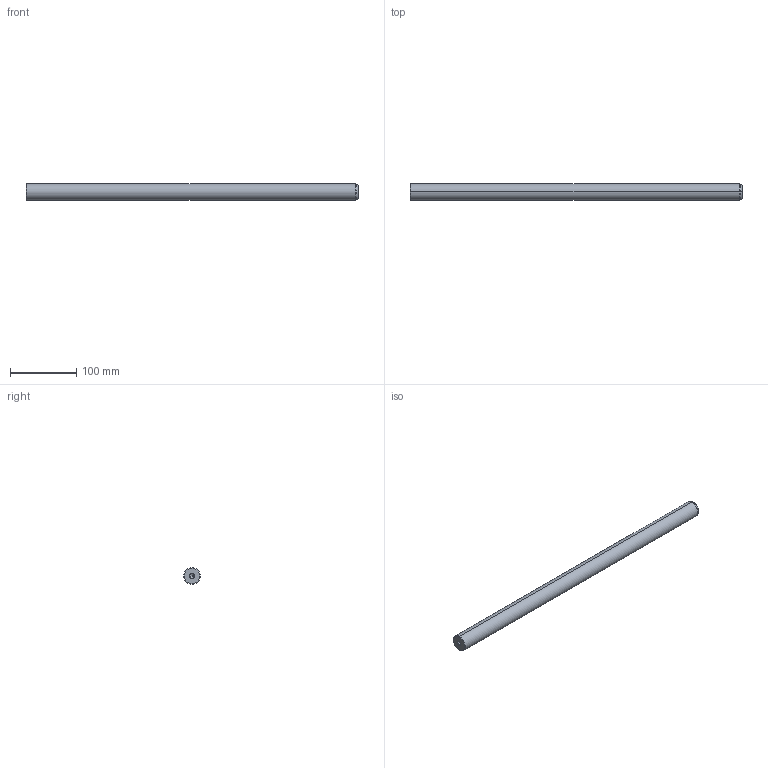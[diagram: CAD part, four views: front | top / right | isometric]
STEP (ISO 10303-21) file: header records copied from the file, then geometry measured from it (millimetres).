
FILE_DESCRIPTION(('CATIA V5 STEP Exchange'),'2;1');
FILE_NAME('C:\Users\Utente\Desktop\IO LAVORO\3D X SITO CF\X SITO\720\720-25x500.stp','2021-01-01T12:35:47+00:00',('none'),('none'),'CATIA Version 5 Release 20 GA (IN-10)','CATIA V5 STEP AP203','none');
FILE_SCHEMA(('CONFIG_CONTROL_DESIGN'));
Length unit declared in the file: millimetre
Products named in the file (1): 720-25x500
Bounding box: 500 x 25 x 25 mm (x, y, z)
Volume: 243460.2 mm3; surface area: 41080.5 mm2
Topology: 1 solids, 1 shells, 22 faces, 62 edges, 40 vertices
Faces by surface type: cone 12, cylinder 6, plane 2, torus 2
Entity records: 806 total; most frequent: CARTESIAN_POINT 229, ORIENTED_EDGE 116, DIRECTION 93, EDGE_CURVE 58, AXIS2_PLACEMENT_3D 54, VERTEX_POINT 40, CIRCLE 31, EDGE_LOOP 24
